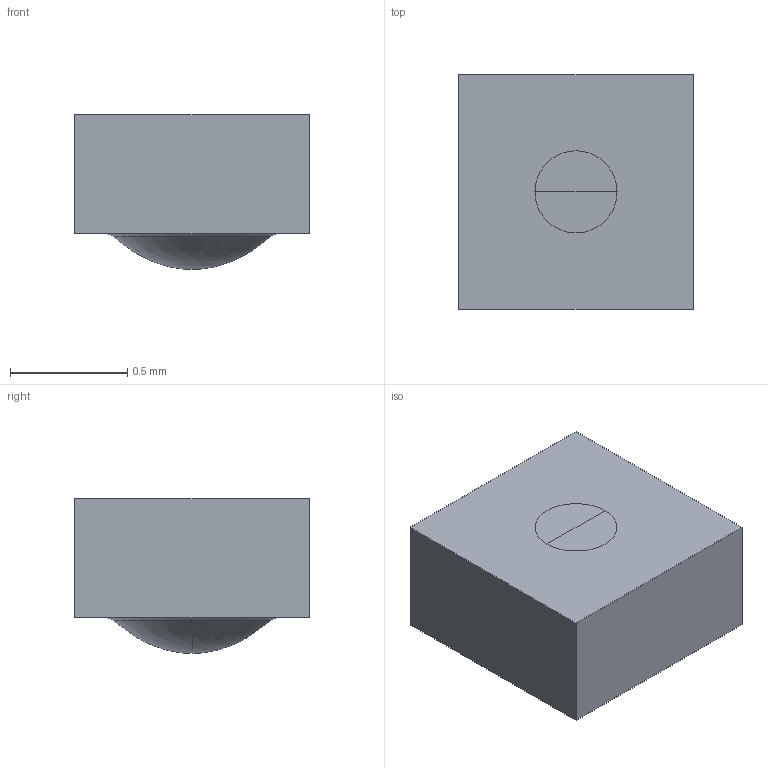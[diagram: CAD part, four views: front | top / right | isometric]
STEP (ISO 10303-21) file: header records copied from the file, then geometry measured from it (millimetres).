
FILE_DESCRIPTION((''),'2;1');
FILE_NAME('355485','2025-06-04T20:37:47',('74035'),('LIGHTPATH'),'CREO PARAMETRIC BY PTC INC, 2024063','CREO PARAMETRIC BY PTC INC, 2024063','');
FILE_SCHEMA(('CONFIG_CONTROL_DESIGN'));
Length unit declared in the file: millimetre
Products named in the file (1): 355485
Bounding box: 1 x 1 x 0.66 mm (x, y, z)
Volume: 0.5 mm3; surface area: 4.1 mm2
Topology: 1 solids, 1 shells, 12 faces, 28 edges, 16 vertices
Faces by surface type: plane 6, revolution 4, torus 2
Entity records: 619 total; most frequent: CARTESIAN_POINT 321, DIRECTION 50, ORIENTED_EDGE 48, EDGE_CURVE 24, AXIS2_PLACEMENT_3D 16, VERTEX_POINT 16, VECTOR 14, LINE 14
